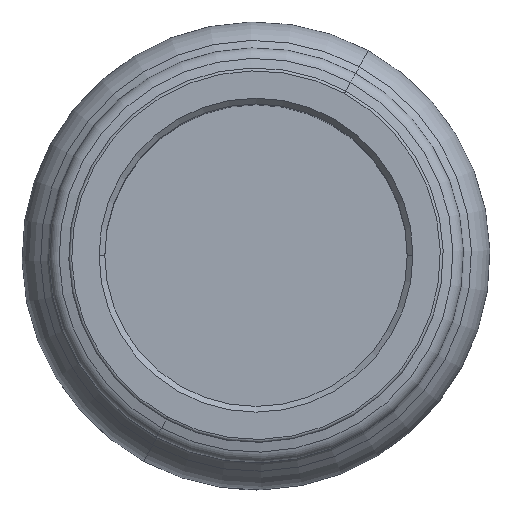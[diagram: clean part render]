
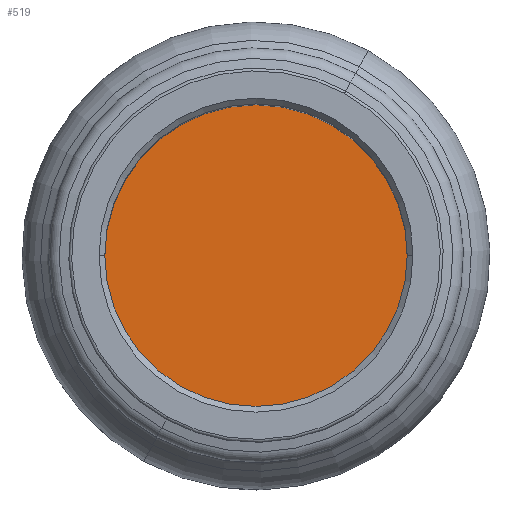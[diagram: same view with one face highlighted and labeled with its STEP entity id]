
A CAD part, top view. The second image highlights one B-rep face of the part: STEP entity #519.
In plain terms, the highlighted planar face has unit normal (0, 0, 1).
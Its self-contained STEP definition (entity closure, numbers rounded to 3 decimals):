
#424=CARTESIAN_POINT('Vertex',(53.,0.,6.)) ;
#427=CARTESIAN_POINT('Axis2P3D Location',(0.,0.,6.)) ;
#431=CARTESIAN_POINT('Vertex',(-53.,0.,6.)) ;
#498=CARTESIAN_POINT('Axis2P3D Location',(0.,0.,6.)) ;
#510=CARTESIAN_POINT('Axis2P3D Location',(0.,0.,6.)) ;
#428=DIRECTION('Axis2P3D Direction',(0.,0.,-1.)) ;
#499=DIRECTION('Axis2P3D Direction',(0.,0.,-1.)) ;
#511=DIRECTION('Axis2P3D Direction',(0.,0.,-1.)) ;
#512=DIRECTION('Axis2P3D XDirection',(1.,0.,0.)) ;
#429=AXIS2_PLACEMENT_3D('Circle Axis2P3D',#427,#428,$) ;
#500=AXIS2_PLACEMENT_3D('Circle Axis2P3D',#498,#499,$) ;
#513=AXIS2_PLACEMENT_3D('Plane Axis2P3D',#510,#511,#512) ;
#516=ORIENTED_EDGE('',*,*,#502,.F.) ;
#517=ORIENTED_EDGE('',*,*,#433,.F.) ;
#519=ADVANCED_FACE('\X2\96F64EF651E04F554F53\X0\',(#518),#514,.F.) ;
#430=CIRCLE('generated circle',#429,53.) ;
#501=CIRCLE('generated circle',#500,53.) ;
#433=EDGE_CURVE('',#425,#432,#430,.T.) ;
#502=EDGE_CURVE('',#432,#425,#501,.T.) ;
#515=EDGE_LOOP('',(#516,#517)) ;
#518=FACE_OUTER_BOUND('',#515,.T.) ;
#514=PLANE('',#513) ;
#425=VERTEX_POINT('',#424) ;
#432=VERTEX_POINT('',#431) ;
